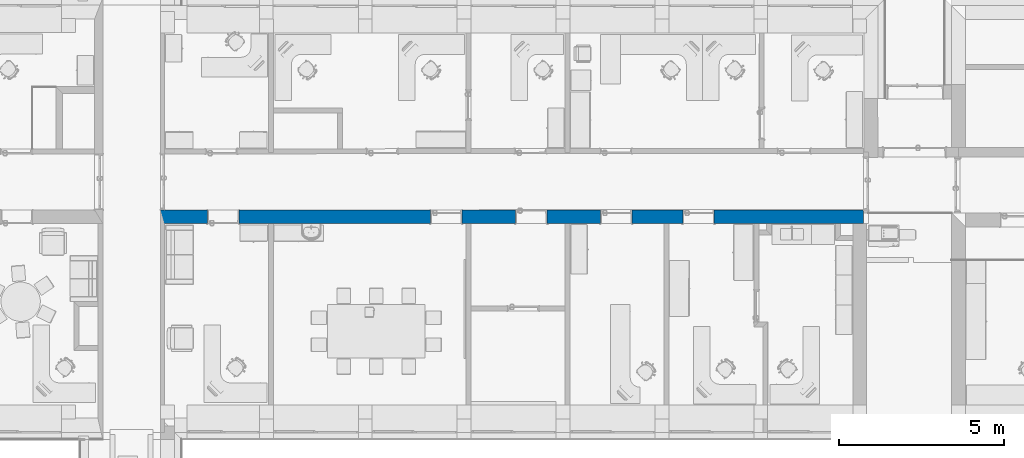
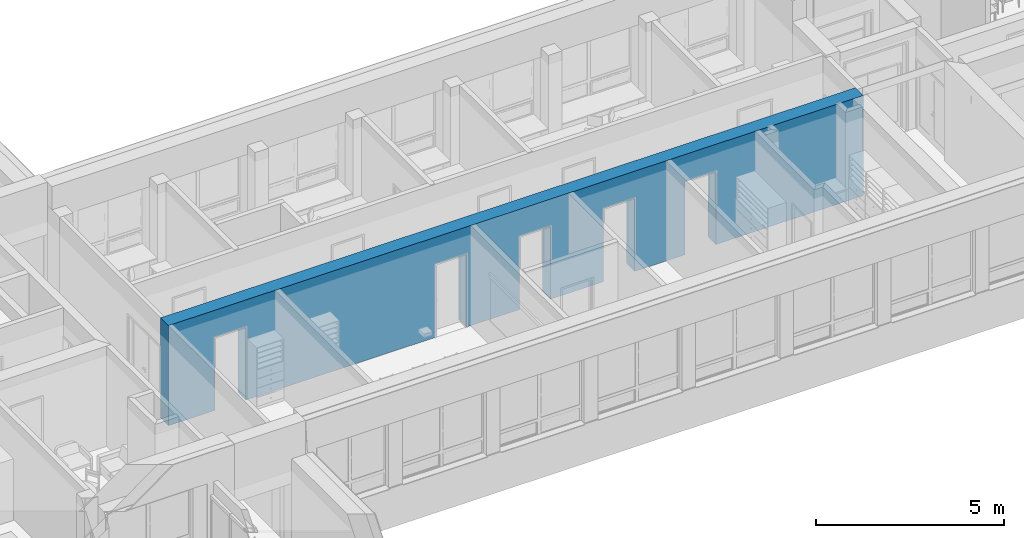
# One storey, part 43 of 194: 1 wall, 6 openings.
"""IFC2X3 building model written with IfcOpenShell, lengths in millimetres."""

import ifcopenshell
import ifcopenshell.guid

model = None  # the IFC model being written
_history = None  # IfcOwnerHistory: only IFC2X3 demands one
_inside = {}  # id of a spatial element -> (the spatial element, [elements in it])
_under = {}  # id of a project, library or spatial element -> (it, [spatial elements below it])
_declared = {}  # id of a project -> (the project, [libraries it declares])
_typed = {}  # id of a type object -> (the type object, [elements of that type])
_made_of = {}  # id of a material, layer set ... -> (it, [elements and type objects made of it])


def new_model(schema):
    """Start an empty IFC model of exactly this schema.

    Asked for "IFC4X3", IfcOpenShell would pick the latest addendum, in which some entities
    have other attributes; the version numbers below select the first issue.
    IFC2X3 requires an IfcOwnerHistory on every rooted entity: one is made here for all.
    """
    global model, _history
    if schema == "IFC4X3":
        model = ifcopenshell.file(schema_version=(4, 3, 0, 0))
    else:
        model = ifcopenshell.file(schema=schema)
    _inside.clear()
    _under.clear()
    _declared.clear()
    _typed.clear()
    _made_of.clear()
    _history = None
    if model.schema == "IFC2X3":
        org = make("IfcOrganization", Name="unknown")
        user = make(
            "IfcPersonAndOrganization",
            ThePerson=make("IfcPerson", FamilyName="unknown"),
            TheOrganization=org,
        )
        app = make(
            "IfcApplication",
            ApplicationDeveloper=org,
            Version="unknown",
            ApplicationFullName="unknown",
            ApplicationIdentifier="unknown",
        )
        _history = make(
            "IfcOwnerHistory",
            OwningUser=user,
            OwningApplication=app,
            ChangeAction="ADDED",
            CreationDate=0,
        )
    return model


def make(cls, **values):
    """One entity of the class cls with the attributes given. An attribute that is None is left unset."""
    return model.create_entity(
        cls, **{name: value for name, value in values.items() if value is not None}
    )


def entity(cls, *values):
    """Any entity or typed value of the class cls, its attributes in the order of the schema. None: left unset."""
    e = model.create_entity(cls)
    for i, value in enumerate(values):
        if value is not None:
            e[i] = value
    return e


def rooted(cls, **values):
    """An entity with a GlobalId (a new one), such as an element, a storey or a relation."""
    return make(cls, GlobalId=ifcopenshell.guid.new(), OwnerHistory=_history, **values)


def si_unit(unit_type, name, prefix=None):
    """IfcSIUnit, for example si_unit("LENGTHUNIT", "METRE", prefix="MILLI")."""
    return make("IfcSIUnit", UnitType=unit_type, Prefix=prefix, Name=name)


def converted_unit(unit_type, name, factor, base, dimensions=None, offset=None):
    """IfcConversionBasedUnit, such as the inch: factor (a typed value) times the base unit."""
    return make(
        "IfcConversionBasedUnit"
        if offset is None
        else "IfcConversionBasedUnitWithOffset",
        ConversionOffset=offset,
        Dimensions=None
        if dimensions is None
        else entity("IfcDimensionalExponents", *dimensions),
        UnitType=unit_type,
        Name=name,
        ConversionFactor=make(
            "IfcMeasureWithUnit", ValueComponent=factor, UnitComponent=base
        ),
    )


def derived_unit(unit_type, elements):
    """IfcDerivedUnit: a product of units, each with its exponent."""
    return make(
        "IfcDerivedUnit",
        Elements=[
            make("IfcDerivedUnitElement", Unit=unit, Exponent=power)
            for unit, power in elements
        ],
        UnitType=unit_type,
    )


def money_unit(currency):
    """IfcMonetaryUnit."""
    return make("IfcMonetaryUnit", Currency=currency)


def assignment(units):
    """IfcUnitAssignment: the units of a project."""
    return None if units is None else make("IfcUnitAssignment", Units=units)


def point(xyz):
    """IfcCartesianPoint."""
    return None if xyz is None else make("IfcCartesianPoint", Coordinates=xyz)


def direction(xyz):
    """IfcDirection."""
    return None if xyz is None else make("IfcDirection", DirectionRatios=xyz)


def frame(location, z_axis=None, x_axis=None):
    """IfcAxis2Placement3D, a coordinate frame: its origin and axes. An axis left out is left unset."""
    return make(
        "IfcAxis2Placement3D",
        Location=point(location),
        Axis=direction(z_axis),
        RefDirection=direction(x_axis),
    )


def frame_2d(location, x_axis=None):
    """IfcAxis2Placement2D, a coordinate frame in the plane: its origin and x axis."""
    return make(
        "IfcAxis2Placement2D", Location=point(location), RefDirection=direction(x_axis)
    )


def origin_with_axes():
    """The frame at (0, 0, 0) with the z axis (0, 0, 1) and the x axis (1, 0, 0) written out."""
    return frame((0.0, 0.0, 0.0), z_axis=(0.0, 0.0, 1.0), x_axis=(1.0, 0.0, 0.0))


def origin_2d_with_axis():
    """The frame at (0, 0) in the plane with the x axis (1, 0) written out."""
    return frame_2d((0.0, 0.0), x_axis=(1.0, 0.0))


def place(relative_to, where):
    """IfcLocalPlacement: puts the frame where relative to a parent placement (None: the world)."""
    return make(
        "IfcLocalPlacement", PlacementRelTo=relative_to, RelativePlacement=where
    )


def context(
    kind, dimensions, precision=None, world=None, true_north=None, identifier=None
):
    """IfcGeometricRepresentationContext, for example the 3D "Model" context."""
    return make(
        "IfcGeometricRepresentationContext",
        ContextIdentifier=identifier,
        ContextType=kind,
        CoordinateSpaceDimension=dimensions,
        Precision=precision,
        WorldCoordinateSystem=world,
        TrueNorth=true_north,
    )


def subcontext(parent, identifier, kind, view, scale=None):
    """IfcGeometricRepresentationSubContext, for example "Body" below "Model"."""
    return make(
        "IfcGeometricRepresentationSubContext",
        ContextIdentifier=identifier,
        ContextType=kind,
        ParentContext=parent,
        TargetScale=scale,
        TargetView=view,
    )


def project(units=None, contexts=None):
    """IfcProject with its units and contexts."""
    return rooted(
        "IfcProject",
        Name="project",
        RepresentationContexts=contexts,
        UnitsInContext=assignment(units),
    )


def spatial(cls, under=None, at=None, **own):
    """A site, building, storey or space (cls), placed at a placement, below another one or the project."""
    s = rooted(cls, ObjectPlacement=at, **own)
    if under is not None:
        _under.setdefault(under.id(), (under, []))[1].append(s)
    return s


def polyline(points):
    """IfcPolyline through the points."""
    return make("IfcPolyline", Points=[point(p) for p in points])


def profile(cls, at=None, kind="AREA", **sizes):
    """A parametric profile (cls). Its sizes go by their IFC names, for example OverallWidth=200.0."""
    return make(cls, ProfileType=kind, Position=at, **sizes)


def rectangle(**sizes):
    """IfcRectangleProfileDef."""
    return profile("IfcRectangleProfileDef", **sizes)


def outline(outer, holes=None, kind="AREA"):
    """IfcArbitraryClosedProfileDef: a profile drawn as a closed curve; with holes, ...WithVoids."""
    if holes is None:
        return make("IfcArbitraryClosedProfileDef", ProfileType=kind, OuterCurve=outer)
    return make(
        "IfcArbitraryProfileDefWithVoids",
        ProfileType=kind,
        OuterCurve=outer,
        InnerCurves=holes,
    )


def extrude(swept, where, along, depth):
    """IfcExtrudedAreaSolid: the profile swept, set in the frame where, extruded along a direction by depth."""
    return make(
        "IfcExtrudedAreaSolid",
        SweptArea=swept,
        Position=where,
        ExtrudedDirection=direction(along),
        Depth=depth,
    )


def boolean(op, a, b):
    """IfcBooleanResult of two solids."""
    return make("IfcBooleanResult", Operator=op, FirstOperand=a, SecondOperand=b)


def faces_of(points, faces, orient=None, outer=None):
    """IfcFace entities. A face is a list of loops; a loop is a list of indices into points, from 0.

    orient and outer hold one flag for each loop. By default every Orientation is true, the
    first loop of a face is its IfcFaceOuterBound and the others are IfcFaceBound.
    """
    made = []
    for i, loops in enumerate(faces):
        bounds = []
        for j, loop in enumerate(loops):
            is_outer = j == 0 if outer is None else outer[i][j]
            bounds.append(
                make(
                    "IfcFaceOuterBound" if is_outer else "IfcFaceBound",
                    Bound=make("IfcPolyLoop", Polygon=[points[k] for k in loop]),
                    Orientation=True if orient is None else orient[i][j],
                )
            )
        made.append(make("IfcFace", Bounds=bounds))
    return made


def faceted_brep(points, faces, orient=None, outer=None, voids=None):
    """IfcFacetedBrep: a solid bounded by flat faces; with voids (closed shells), ...WithVoids."""
    shared = [point(p) for p in points]
    hull = make("IfcClosedShell", CfsFaces=faces_of(shared, faces, orient, outer))
    if voids is None:
        return make("IfcFacetedBrep", Outer=hull)
    return make(
        "IfcFacetedBrepWithVoids",
        Outer=hull,
        Voids=[
            make(cls, CfsFaces=faces_of(shared, fs, o, b)) for cls, fs, o, b in voids
        ],
    )


def shape(context_of_items, identifier, shape_type, items):
    """IfcShapeRepresentation: the items that make up one representation, for example the "Body"."""
    return make(
        "IfcShapeRepresentation",
        ContextOfItems=context_of_items,
        RepresentationIdentifier=identifier,
        RepresentationType=shape_type,
        Items=items,
    )


def material(Name=None, Category=None):
    """IfcMaterial."""
    return make("IfcMaterial", Name=Name, Category=Category)


def made_of(thing, what):
    """Note that an element or type object is made of a material, layer set ...; save() writes the relation."""
    if what is not None:
        _made_of.setdefault(what.id(), (what, []))[1].append(thing)
    return thing


def type_object(cls, material=None, **own):
    """A type object (cls), such as IfcWallType, which elements share."""
    return made_of(rooted(cls, **own), material)


def element(
    cls,
    number,
    at=None,
    inside=None,
    cuts=None,
    type_object=None,
    material=None,
    context=None,
    identifier="Body",
    shape_type=None,
    held_by="IfcProductDefinitionShape",
    body=None,
    shapes=None,
    **own,
):
    """One element of the class cls, such as IfcWall. Its Tag is "e" and its number.

    at: its placement. inside: the storey or other place that contains it. cuts: it is an
    opening in that element (IfcRelVoidsElement). A single representation is given by context,
    identifier, shape_type and body (its items); several are given by shapes. held_by: the class
    of the entity that holds the representations. save() writes the other relations.
    """
    e = rooted(cls, Tag="e%d" % number, ObjectPlacement=at, **own)
    if body is not None:
        shapes = [shape(context, identifier, shape_type, body)]
    if shapes is not None:
        e.Representation = make(held_by, Representations=shapes)
    if inside is not None:
        _inside.setdefault(inside.id(), (inside, []))[1].append(e)
    if cuts is not None:
        rooted(
            "IfcRelVoidsElement", RelatingBuildingElement=cuts, RelatedOpeningElement=e
        )
    if type_object is not None:
        _typed.setdefault(type_object.id(), (type_object, []))[1].append(e)
    return made_of(e, material)


def aggregate(whole, parts):
    """IfcRelAggregates: a whole, such as a stair, and the parts it consists of."""
    return rooted("IfcRelAggregates", RelatingObject=whole, RelatedObjects=parts)


def save(model, path):
    """Write the relations noted so far, then the file.

    IfcRelAggregates (storeys below a building ...), IfcRelContainedInSpatialStructure (elements
    in a storey), IfcRelDefinesByType, IfcRelAssociatesMaterial and IfcRelDeclares: one each for
    every whole, place, type object, material and project.
    """
    for whole, parts in _under.values():
        aggregate(whole, parts)
    for where, things in _inside.values():
        rooted(
            "IfcRelContainedInSpatialStructure",
            RelatedElements=things,
            RelatingStructure=where,
        )
    for kind, things in _typed.values():
        rooted("IfcRelDefinesByType", RelatedObjects=things, RelatingType=kind)
    for what, things in _made_of.values():
        rooted("IfcRelAssociatesMaterial", RelatedObjects=things, RelatingMaterial=what)
    for by, libraries in _declared.values():
        rooted("IfcRelDeclares", RelatingContext=by, RelatedDefinitions=libraries)
    model.write(path)


model = new_model("IFC2X3")

# Units and contexts
model_context = context("Model", 3, precision=1e-05, world=origin_with_axes(), true_north=direction((0.0, 1.0)))
body_context = subcontext(model_context, "Body", "Model", "MODEL_VIEW")
ifc_project = project(units=[si_unit("LENGTHUNIT", "METRE", prefix="MILLI"), si_unit("AREAUNIT", "SQUARE_METRE"), si_unit("VOLUMEUNIT", "CUBIC_METRE"), converted_unit("PLANEANGLEUNIT", "DEGREE", entity("IfcPlaneAngleMeasure", 0.0174532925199), si_unit("PLANEANGLEUNIT", "RADIAN"), dimensions=[0, 0, 0, 0, 0, 0, 0]), si_unit("SOLIDANGLEUNIT", "STERADIAN"), money_unit("EUR"), converted_unit("TIMEUNIT", "Year", entity("IfcTimeMeasure", 31556926.0), si_unit("TIMEUNIT", "SECOND"), dimensions=[0, 0, 1, 0, 0, 0, 0]), si_unit("MASSUNIT", "GRAM", prefix="KILO"), si_unit("THERMODYNAMICTEMPERATUREUNIT", "DEGREE_CELSIUS"), si_unit("LUMINOUSINTENSITYUNIT", "LUMEN"), si_unit("ENERGYUNIT", "JOULE", prefix="MEGA"), derived_unit("THERMALCONDUCTANCEUNIT", [(si_unit("POWERUNIT", "WATT"), 1), (si_unit("LENGTHUNIT", "METRE"), -1), (si_unit("THERMODYNAMICTEMPERATUREUNIT", "KELVIN"), -1)]), derived_unit("SPECIFICHEATCAPACITYUNIT", [(si_unit("ENERGYUNIT", "JOULE"), 1), (si_unit("MASSUNIT", "GRAM", prefix="KILO"), -1), (si_unit("THERMODYNAMICTEMPERATUREUNIT", "KELVIN"), -1)]), derived_unit("MASSDENSITYUNIT", [(si_unit("MASSUNIT", "GRAM", prefix="KILO"), 1), (si_unit("VOLUMEUNIT", "CUBIC_METRE"), -1)])], contexts=[model_context])

# Site, building, storey
site_placement = place(None, origin_with_axes())
site = spatial("IfcSite", under=ifc_project, at=site_placement, Name="Site", CompositionType="ELEMENT")
building_placement = place(site_placement, origin_with_axes())
building = spatial("IfcBuilding", under=site, at=building_placement, Name="Building", CompositionType="ELEMENT")
storey_placement = place(building_placement, frame((0.0, 0.0, 3000.0), z_axis=(0.0, 0.0, 1.0), x_axis=(1.0, 0.0, 0.0)))
storey = spatial("IfcBuildingStorey", under=building, at=storey_placement, Name="2 KORRUS", CompositionType="ELEMENT", Elevation=3000.0)

# Wall, openings
ifc_material = material(Name="Kivi -Ol.Olev Konstruktsioon")
wall_type = type_object("IfcWallType", Name="SW - 022", PredefinedType="NOTDEFINED")
wall_placement = place(storey_placement, frame((39735.1743177, 41101.6242698, 0.0), z_axis=(0.0, 0.0, 1.0), x_axis=(1.0, 0.0, 0.0)))
wall = element("IfcWall", 1, at=wall_placement, inside=storey, type_object=wall_type, material=ifc_material, Name="ol.olev ss 420", context=body_context, shape_type="CSG", body=[
    boolean("DIFFERENCE", extrude(outline(polyline([(0.0, -420.0), (21472.9684408, -420.0), (21472.9684408, 0.0), (0.0, 0.0), (0.0, -420.0)])), origin_with_axes(), (0.0, 0.0, 1.0), 3250.0), faceted_brep([(21322.9684408, 0.0, 0.0), (21322.9684408, 0.0, 3250.0), (21472.9684408, 0.0, 3250.0), (21472.9684408, 0.0, 0.0), (21322.9684408, -420.0, 3250.0), (21322.9684408, -420.0, 0.0), (21472.9684408, -420.0, 3250.0), (21472.9684408, -420.0, 0.0)], [[[0, 1, 2, 3]], [[4, 1, 0, 5]], [[1, 4, 6, 2]], [[6, 7, 3, 2]], [[5, 0, 3, 7]], [[4, 5, 7, 6]]])),
])
opening_1_placement = place(wall_placement, frame((8668.63932972, 0.0, 0.0), z_axis=(0.0, 0.0, 1.0), x_axis=(1.0, 0.0, 0.0)))
element("IfcOpeningElement", 2, at=opening_1_placement, cuts=wall, Name="Siseuks * Door 22", context=body_context, shape_type="SweptSolid", body=[
    extrude(rectangle(XDim=950.0, YDim=2370.0, at=origin_2d_with_axis()), frame((0.0, -420.0, 1185.0), z_axis=(0.0, -1.0, 0.0), x_axis=(1.0, 0.0, 0.0)), (0.0, 0.0, -1.0), 1260.0),
    extrude(rectangle(XDim=1024.0, YDim=2407.0, at=origin_2d_with_axis()), frame((0.0, -420.0, 1203.5), z_axis=(0.0, -1.0, 0.0), x_axis=(1.0, 0.0, 0.0)), (0.0, 0.0, 1.0), 420.0),
    extrude(rectangle(XDim=1024.0, YDim=2407.0, at=origin_2d_with_axis()), frame((0.0, 0.0, 1203.5), z_axis=(0.0, 1.0, 0.0), x_axis=(1.0, 0.0, 0.0)), (0.0, 0.0, 1.0), 420.0),
])
opening_2_placement = place(wall_placement, frame((13826.8019044, 0.0, 0.0), z_axis=(0.0, 0.0, 1.0), x_axis=(1.0, 0.0, 0.0)))
element("IfcOpeningElement", 3, at=opening_2_placement, cuts=wall, Name="Siseuks * Door 22", context=body_context, shape_type="SweptSolid", body=[
    extrude(rectangle(XDim=950.0, YDim=2370.0, at=origin_2d_with_axis()), frame((0.0, -420.0, 1185.0), z_axis=(0.0, -1.0, 0.0), x_axis=(1.0, 0.0, 0.0)), (0.0, 0.0, -1.0), 1260.0),
    extrude(rectangle(XDim=1024.0, YDim=2407.0, at=origin_2d_with_axis()), frame((0.0, -420.0, 1203.5), z_axis=(0.0, -1.0, 0.0), x_axis=(1.0, 0.0, 0.0)), (0.0, 0.0, 1.0), 420.0),
    extrude(rectangle(XDim=1024.0, YDim=2407.0, at=origin_2d_with_axis()), frame((0.0, 0.0, 1203.5), z_axis=(0.0, 1.0, 0.0), x_axis=(1.0, 0.0, 0.0)), (0.0, 0.0, 1.0), 420.0),
])
opening_3_placement = place(wall_placement, frame((16319.4027437, 0.0, 0.0), z_axis=(0.0, 0.0, 1.0), x_axis=(1.0, 0.0, 0.0)))
element("IfcOpeningElement", 4, at=opening_3_placement, cuts=wall, Name="Siseuks * Door 22", context=body_context, shape_type="SweptSolid", body=[
    extrude(rectangle(XDim=950.0, YDim=2370.0, at=origin_2d_with_axis()), frame((0.0, -420.0, 1185.0), z_axis=(0.0, -1.0, 0.0), x_axis=(1.0, 0.0, 0.0)), (0.0, 0.0, -1.0), 1260.0),
    extrude(rectangle(XDim=1024.0, YDim=2407.0, at=origin_2d_with_axis()), frame((0.0, -420.0, 1203.5), z_axis=(0.0, -1.0, 0.0), x_axis=(1.0, 0.0, 0.0)), (0.0, 0.0, 1.0), 420.0),
    extrude(rectangle(XDim=1024.0, YDim=2407.0, at=origin_2d_with_axis()), frame((0.0, 0.0, 1203.5), z_axis=(0.0, 1.0, 0.0), x_axis=(1.0, 0.0, 0.0)), (0.0, 0.0, 1.0), 420.0),
])
opening_4_placement = place(wall_placement, frame((1899.02777506, 0.0, 0.0), z_axis=(0.0, 0.0, 1.0), x_axis=(1.0, 0.0, 0.0)))
element("IfcOpeningElement", 5, at=opening_4_placement, cuts=wall, Name="Siseuks * Door 22", context=body_context, shape_type="SweptSolid", body=[
    extrude(rectangle(XDim=950.0, YDim=2370.0, at=origin_2d_with_axis()), frame((0.0, 420.0, 1185.0), z_axis=(0.0, 1.0, 0.0), x_axis=(1.0, 0.0, 0.0)), (0.0, 0.0, -1.0), 1260.0),
    extrude(rectangle(XDim=1024.0, YDim=2407.0, at=origin_2d_with_axis()), frame((0.0, 0.0, 1203.5), z_axis=(0.0, 1.0, 0.0), x_axis=(1.0, 0.0, 0.0)), (0.0, 0.0, 1.0), 420.0),
    extrude(rectangle(XDim=1024.0, YDim=2407.0, at=origin_2d_with_axis()), frame((0.0, -420.0, 1203.5), z_axis=(0.0, -1.0, 0.0), x_axis=(1.0, 0.0, 0.0)), (0.0, 0.0, 1.0), 420.0),
])
opening_5_placement = place(wall_placement, frame((22787.6248523, 0.0, 0.0), z_axis=(0.0, 0.0, 1.0), x_axis=(1.0, 0.0, 0.0)))
element("IfcOpeningElement", 6, at=opening_5_placement, cuts=wall, Name="Background;  Objekti nimi: Simple Door Opening", context=body_context, shape_type="SweptSolid", body=[
    extrude(rectangle(XDim=2506.53938516, YDim=2240.0, at=origin_2d_with_axis()), frame((0.0, -420.0, 1120.0), z_axis=(0.0, 1.0, 0.0), x_axis=(1.0, 0.0, 0.0)), (0.0, 0.0, -1.0), 420.0),
    extrude(rectangle(XDim=2626.53938516, YDim=2300.0, at=origin_2d_with_axis()), frame((0.0, -420.0, 1150.0), z_axis=(0.0, -1.0, 0.0), x_axis=(1.0, 0.0, 0.0)), (0.0, 0.0, -1.0), 420.0),
])
opening_6_placement = place(wall_placement, frame((11250.2378573, 0.0, 0.0), z_axis=(0.0, 0.0, 1.0), x_axis=(1.0, 0.0, 0.0)))
element("IfcOpeningElement", 7, at=opening_6_placement, cuts=wall, Name="Siseuks * Door 22", context=body_context, shape_type="SweptSolid", body=[
    extrude(rectangle(XDim=950.0, YDim=2370.0, at=origin_2d_with_axis()), frame((0.0, -420.0, 1185.0), z_axis=(0.0, 1.0, 0.0), x_axis=(1.0, 0.0, 0.0)), (0.0, 0.0, 1.0), 1260.0),
    extrude(rectangle(XDim=1024.0, YDim=2407.0, at=origin_2d_with_axis()), frame((0.0, -420.0, 1203.5), z_axis=(0.0, 1.0, 0.0), x_axis=(1.0, 0.0, 0.0)), (0.0, 0.0, -1.0), 420.0),
    extrude(rectangle(XDim=1024.0, YDim=2407.0, at=origin_2d_with_axis()), frame((0.0, 0.0, 1203.5), z_axis=(0.0, -1.0, 0.0), x_axis=(1.0, 0.0, 0.0)), (0.0, 0.0, -1.0), 420.0),
])

save(model, "model.ifc")
